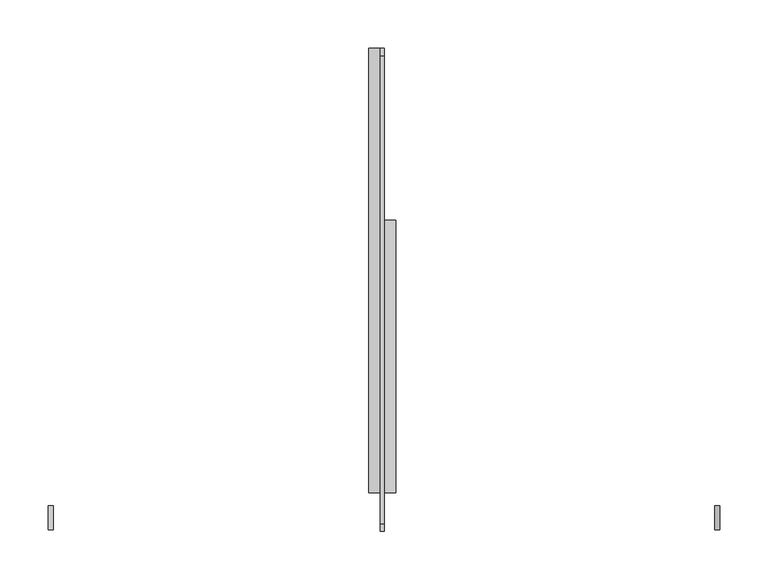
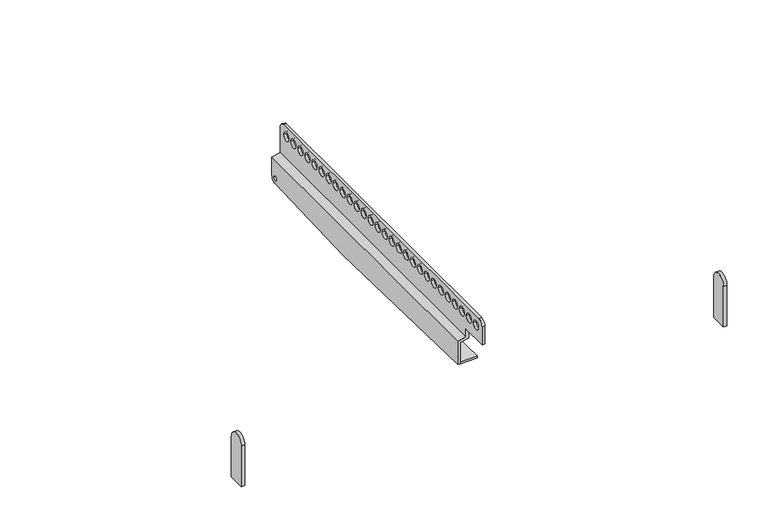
"""IFC4 building model written with IfcOpenShell, lengths in millimetres: proxy geometry, d&b A-Series Flying Frame : AL Flying Frame."""

from ifc_helpers import new_model, si_unit, point, frame, origin, origin_2d, place, context, project, spatial, polyline, circle_curve, trimmed, segment, composite_curve, outline, extrude, source, transform, mapped, element, save
from ifc_brep_helpers import plane_surface, cylinder_surface, revolved_surface, advanced_brep


def communication_devices_07eabc64(model_context):
    return source(origin(), model_context, "Body", "SolidModel", [
        advanced_brep(
        [(-4.0, 26.0, 22.1231056), (-16.0, 26.0, 19.1231056), (-16.0, 26.0, -16.0), (-12.0, 26.0, -16.0), (-12.0, 26.0, 16.0), (0.0, 26.0, 19.0), (0.0, 26.0, 34.0), (-4.0, 26.0, 34.0), (0.0, 486.0, 19.0), (-12.0, 486.0, 16.0), (-12.0, 486.0, -8.2905675), (-16.0, 486.0, -8.2905675), (-16.0, 486.0, 19.1231056), (-4.0, 486.0, 22.1231056), (-4.0, 486.0, 61.0), (0.0, 486.0, 61.0), (-16.0, 478.2958408, -16.2850956), (-16.0, 310.35, -22.5), (-16.0, 481.2216493, -8.2510012), (-16.0, 474.8240705, -8.2510012), (-12.0, 310.35, -22.5), (-12.0, 478.2958408, -16.2850956), (-12.0, 481.2216493, -8.2510012), (-12.0, 474.8240705, -8.2510012), (0.0, -14.0, 34.0), (0.0, -14.0, 61.0), (-4.0, -14.0, 61.0), (-4.0, -14.0, 34.0), (0.0, -6.0, 69.0), (0.0, 478.0, 69.0), (-4.0, 478.0, 69.0), (-4.0, -6.0, 69.0), (0.0, 464.65, 55.0), (0.0, 477.15, 55.0), (0.0, 447.25, 55.0), (0.0, 459.75, 55.0), (0.0, 429.85, 55.0), (0.0, 442.35, 55.0), (0.0, 412.45, 55.0), (0.0, 424.95, 55.0), (0.0, 395.05, 55.0), (0.0, 407.55, 55.0), (0.0, 377.65, 55.0), (0.0, 390.15, 55.0), (0.0, 360.25, 55.0), (0.0, 372.75, 55.0), (0.0, 342.85, 55.0), (0.0, 355.35, 55.0), (0.0, 325.45, 55.0), (0.0, 337.95, 55.0), (0.0, 198.75, 55.0), (0.0, 186.25, 55.0), (0.0, 216.15, 55.0), (0.0, 203.65, 55.0), (0.0, 233.55, 55.0), (0.0, 221.05, 55.0), (0.0, 250.95, 55.0), (0.0, 238.45, 55.0), (0.0, 268.35, 55.0), (0.0, 255.85, 55.0), (0.0, 285.75, 55.0), (0.0, 273.25, 55.0), (0.0, 303.15, 55.0), (0.0, 290.65, 55.0), (0.0, 320.55, 55.0), (0.0, 308.05, 55.0), (0.0, 59.55, 55.0), (0.0, 47.05, 55.0), (0.0, 168.85, 55.0), (0.0, 181.35, 55.0), (0.0, 151.45, 55.0), (0.0, 163.95, 55.0), (0.0, 134.05, 55.0), (0.0, 146.55, 55.0), (0.0, 116.65, 55.0), (0.0, 129.15, 55.0), (0.0, 99.25, 55.0), (0.0, 111.75, 55.0), (0.0, 81.85, 55.0), (0.0, 94.35, 55.0), (0.0, 64.45, 55.0), (0.0, 76.95, 55.0), (0.0, 7.35, 55.0), (0.0, -5.15, 55.0), (0.0, 24.75, 55.0), (0.0, 12.25, 55.0), (0.0, 42.15, 55.0), (0.0, 29.65, 55.0), (-4.0, 464.65, 55.0), (-4.0, 477.15, 55.0), (-4.0, 447.25, 55.0), (-4.0, 459.75, 55.0), (-4.0, 429.85, 55.0), (-4.0, 442.35, 55.0), (-4.0, 412.45, 55.0), (-4.0, 424.95, 55.0), (-4.0, 395.05, 55.0), (-4.0, 407.55, 55.0), (-4.0, 377.65, 55.0), (-4.0, 390.15, 55.0), (-4.0, 360.25, 55.0), (-4.0, 372.75, 55.0), (-4.0, 342.85, 55.0), (-4.0, 355.35, 55.0), (-4.0, 325.45, 55.0), (-4.0, 337.95, 55.0), (-4.0, 198.75, 55.0), (-4.0, 186.25, 55.0), (-4.0, 216.15, 55.0), (-4.0, 203.65, 55.0), (-4.0, 233.55, 55.0), (-4.0, 221.05, 55.0), (-4.0, 250.95, 55.0), (-4.0, 238.45, 55.0), (-4.0, 268.35, 55.0), (-4.0, 255.85, 55.0), (-4.0, 285.75, 55.0), (-4.0, 273.25, 55.0), (-4.0, 303.15, 55.0), (-4.0, 290.65, 55.0), (-4.0, 320.55, 55.0), (-4.0, 308.05, 55.0), (-4.0, 59.55, 55.0), (-4.0, 47.05, 55.0), (-4.0, 168.85, 55.0), (-4.0, 181.35, 55.0), (-4.0, 151.45, 55.0), (-4.0, 163.95, 55.0), (-4.0, 134.05, 55.0), (-4.0, 146.55, 55.0), (-4.0, 116.65, 55.0), (-4.0, 129.15, 55.0), (-4.0, 99.25, 55.0), (-4.0, 111.75, 55.0), (-4.0, 81.85, 55.0), (-4.0, 94.35, 55.0), (-4.0, 64.45, 55.0), (-4.0, 76.95, 55.0), (-4.0, 7.35, 55.0), (-4.0, -5.15, 55.0), (-4.0, 24.75, 55.0), (-4.0, 12.25, 55.0), (-4.0, 42.15, 55.0), (-4.0, 29.65, 55.0)],
        [
            (0, 1),
            (1, 2),
            (2, 3),
            (3, 4),
            (4, 5),
            (5, 6),
            (6, 7),
            (7, 0),
            (8, 9),
            (9, 10),
            (10, 11),
            (11, 12),
            (12, 13),
            (13, 14),
            (14, 15),
            (15, 8),
            (0, 13),
            (12, 1),
            (11, 16, circle_curve(frame((-16.0, 478.0, -8.2905675), z_axis=(-1.0, 0.0, 0.0), x_axis=(0.0, -1.0, 0.0)), 8.0)),
            (16, 17),
            (17, 2),
            (18, 19, circle_curve(frame((-16.0, 478.0228599, -8.2510012), z_axis=(1.0, 0.0, 0.0), x_axis=(0.0, -1.0, 0.0)), 3.1987894)),
            (19, 18, circle_curve(frame((-16.0, 478.0228599, -8.2510012), z_axis=(1.0, 0.0, 0.0), x_axis=(0.0, -1.0, 0.0)), 3.1987894)),
            (3, 20),
            (20, 21),
            (21, 10, circle_curve(frame((-12.0, 478.0, -8.2905675), z_axis=(1.0, 0.0, 0.0), x_axis=(0.0, -1.0, 0.0)), 8.0)),
            (9, 4),
            (22, 23, circle_curve(frame((-12.0, 478.0228599, -8.2510012), z_axis=(-1.0, 0.0, 0.0), x_axis=(0.0, -1.0, 0.0)), 3.1987894)),
            (23, 22, circle_curve(frame((-12.0, 478.0228599, -8.2510012), z_axis=(-1.0, 0.0, 0.0), x_axis=(0.0, -1.0, 0.0)), 3.1987894)),
            (8, 5),
            (24, 25),
            (25, 26),
            (26, 27),
            (27, 24),
            (6, 24),
            (27, 7),
            (28, 29),
            (29, 30),
            (30, 31),
            (31, 28),
            (25, 28, circle_curve(frame((0.0, -6.0, 61.0), z_axis=(-1.0, 0.0, 0.0), x_axis=(0.0, -1.0, 0.0)), 8.0)),
            (31, 26, circle_curve(frame((-4.0, -6.0, 61.0), z_axis=(1.0, 0.0, 0.0), x_axis=(0.0, -1.0, 0.0)), 8.0)),
            (29, 15, circle_curve(frame((0.0, 478.0, 61.0), z_axis=(-1.0, 0.0, 0.0), x_axis=(0.0, -1.0, 0.0)), 8.0)),
            (14, 30, circle_curve(frame((-4.0, 478.0, 61.0), z_axis=(1.0, 0.0, 0.0), x_axis=(0.0, -1.0, 0.0)), 8.0)),
            (17, 20),
            (16, 21),
            (22, 18),
            (19, 23),
            (32, 33, circle_curve(frame((0.0, 470.9, 55.0), z_axis=(-1.0, 0.0, 0.0), x_axis=(0.0, 1.0, 0.0)), 6.25)),
            (33, 32, circle_curve(frame((0.0, 470.9, 55.0), z_axis=(-1.0, 0.0, 0.0), x_axis=(0.0, 1.0, 0.0)), 6.25)),
            (34, 35, circle_curve(frame((0.0, 453.5, 55.0), z_axis=(-1.0, 0.0, 0.0), x_axis=(0.0, 1.0, 0.0)), 6.25)),
            (35, 34, circle_curve(frame((0.0, 453.5, 55.0), z_axis=(-1.0, 0.0, 0.0), x_axis=(0.0, 1.0, 0.0)), 6.25)),
            (36, 37, circle_curve(frame((0.0, 436.1, 55.0), z_axis=(-1.0, 0.0, 0.0), x_axis=(0.0, 1.0, 0.0)), 6.25)),
            (37, 36, circle_curve(frame((0.0, 436.1, 55.0), z_axis=(-1.0, 0.0, 0.0), x_axis=(0.0, 1.0, 0.0)), 6.25)),
            (38, 39, circle_curve(frame((0.0, 418.7, 55.0), z_axis=(-1.0, 0.0, 0.0), x_axis=(0.0, 1.0, 0.0)), 6.25)),
            (39, 38, circle_curve(frame((0.0, 418.7, 55.0), z_axis=(-1.0, 0.0, 0.0), x_axis=(0.0, 1.0, 0.0)), 6.25)),
            (40, 41, circle_curve(frame((0.0, 401.3, 55.0), z_axis=(-1.0, 0.0, 0.0), x_axis=(0.0, 1.0, 0.0)), 6.25)),
            (41, 40, circle_curve(frame((0.0, 401.3, 55.0), z_axis=(-1.0, 0.0, 0.0), x_axis=(0.0, 1.0, 0.0)), 6.25)),
            (42, 43, circle_curve(frame((0.0, 383.9, 55.0), z_axis=(-1.0, 0.0, 0.0), x_axis=(0.0, 1.0, 0.0)), 6.25)),
            (43, 42, circle_curve(frame((0.0, 383.9, 55.0), z_axis=(-1.0, 0.0, 0.0), x_axis=(0.0, 1.0, 0.0)), 6.25)),
            (44, 45, circle_curve(frame((0.0, 366.5, 55.0), z_axis=(-1.0, 0.0, 0.0), x_axis=(0.0, 1.0, 0.0)), 6.25)),
            (45, 44, circle_curve(frame((0.0, 366.5, 55.0), z_axis=(-1.0, 0.0, 0.0), x_axis=(0.0, 1.0, 0.0)), 6.25)),
            (46, 47, circle_curve(frame((0.0, 349.1, 55.0), z_axis=(-1.0, 0.0, 0.0), x_axis=(0.0, 1.0, 0.0)), 6.25)),
            (47, 46, circle_curve(frame((0.0, 349.1, 55.0), z_axis=(-1.0, 0.0, 0.0), x_axis=(0.0, 1.0, 0.0)), 6.25)),
            (48, 49, circle_curve(frame((0.0, 331.7, 55.0), z_axis=(-1.0, 0.0, 0.0), x_axis=(0.0, 1.0, 0.0)), 6.25)),
            (49, 48, circle_curve(frame((0.0, 331.7, 55.0), z_axis=(-1.0, 0.0, 0.0), x_axis=(0.0, 1.0, 0.0)), 6.25)),
            (50, 51, circle_curve(frame((0.0, 192.5, 55.0), z_axis=(-1.0, 0.0, 0.0), x_axis=(0.0, -1.0, 0.0)), 6.25)),
            (51, 50, circle_curve(frame((0.0, 192.5, 55.0), z_axis=(-1.0, 0.0, 0.0), x_axis=(0.0, -1.0, 0.0)), 6.25)),
            (52, 53, circle_curve(frame((0.0, 209.9, 55.0), z_axis=(-1.0, 0.0, 0.0), x_axis=(0.0, -1.0, 0.0)), 6.25)),
            (53, 52, circle_curve(frame((0.0, 209.9, 55.0), z_axis=(-1.0, 0.0, 0.0), x_axis=(0.0, -1.0, 0.0)), 6.25)),
            (54, 55, circle_curve(frame((0.0, 227.3, 55.0), z_axis=(-1.0, 0.0, 0.0), x_axis=(0.0, -1.0, 0.0)), 6.25)),
            (55, 54, circle_curve(frame((0.0, 227.3, 55.0), z_axis=(-1.0, 0.0, 0.0), x_axis=(0.0, -1.0, 0.0)), 6.25)),
            (56, 57, circle_curve(frame((0.0, 244.7, 55.0), z_axis=(-1.0, 0.0, 0.0), x_axis=(0.0, -1.0, 0.0)), 6.25)),
            (57, 56, circle_curve(frame((0.0, 244.7, 55.0), z_axis=(-1.0, 0.0, 0.0), x_axis=(0.0, -1.0, 0.0)), 6.25)),
            (58, 59, circle_curve(frame((0.0, 262.1, 55.0), z_axis=(-1.0, 0.0, 0.0), x_axis=(0.0, -1.0, 0.0)), 6.25)),
            (59, 58, circle_curve(frame((0.0, 262.1, 55.0), z_axis=(-1.0, 0.0, 0.0), x_axis=(0.0, -1.0, 0.0)), 6.25)),
            (60, 61, circle_curve(frame((0.0, 279.5, 55.0), z_axis=(-1.0, 0.0, 0.0), x_axis=(0.0, -1.0, 0.0)), 6.25)),
            (61, 60, circle_curve(frame((0.0, 279.5, 55.0), z_axis=(-1.0, 0.0, 0.0), x_axis=(0.0, -1.0, 0.0)), 6.25)),
            (62, 63, circle_curve(frame((0.0, 296.9, 55.0), z_axis=(-1.0, 0.0, 0.0), x_axis=(0.0, -1.0, 0.0)), 6.25)),
            (63, 62, circle_curve(frame((0.0, 296.9, 55.0), z_axis=(-1.0, 0.0, 0.0), x_axis=(0.0, -1.0, 0.0)), 6.25)),
            (64, 65, circle_curve(frame((0.0, 314.3, 55.0), z_axis=(-1.0, 0.0, 0.0), x_axis=(0.0, -1.0, 0.0)), 6.25)),
            (65, 64, circle_curve(frame((0.0, 314.3, 55.0), z_axis=(-1.0, 0.0, 0.0), x_axis=(0.0, -1.0, 0.0)), 6.25)),
            (66, 67, circle_curve(frame((0.0, 53.3, 55.0), z_axis=(-1.0, 0.0, 0.0), x_axis=(0.0, -1.0, 0.0)), 6.25)),
            (67, 66, circle_curve(frame((0.0, 53.3, 55.0), z_axis=(-1.0, 0.0, 0.0), x_axis=(0.0, -1.0, 0.0)), 6.25)),
            (68, 69, circle_curve(frame((0.0, 175.1, 55.0), z_axis=(-1.0, 0.0, 0.0), x_axis=(0.0, 1.0, 0.0)), 6.25)),
            (69, 68, circle_curve(frame((0.0, 175.1, 55.0), z_axis=(-1.0, 0.0, 0.0), x_axis=(0.0, 1.0, 0.0)), 6.25)),
            (70, 71, circle_curve(frame((0.0, 157.7, 55.0), z_axis=(-1.0, 0.0, 0.0), x_axis=(0.0, 1.0, 0.0)), 6.25)),
            (71, 70, circle_curve(frame((0.0, 157.7, 55.0), z_axis=(-1.0, 0.0, 0.0), x_axis=(0.0, 1.0, 0.0)), 6.25)),
            (72, 73, circle_curve(frame((0.0, 140.3, 55.0), z_axis=(-1.0, 0.0, 0.0), x_axis=(0.0, 1.0, 0.0)), 6.25)),
            (73, 72, circle_curve(frame((0.0, 140.3, 55.0), z_axis=(-1.0, 0.0, 0.0), x_axis=(0.0, 1.0, 0.0)), 6.25)),
            (74, 75, circle_curve(frame((0.0, 122.9, 55.0), z_axis=(-1.0, 0.0, 0.0), x_axis=(0.0, 1.0, 0.0)), 6.25)),
            (75, 74, circle_curve(frame((0.0, 122.9, 55.0), z_axis=(-1.0, 0.0, 0.0), x_axis=(0.0, 1.0, 0.0)), 6.25)),
            (76, 77, circle_curve(frame((0.0, 105.5, 55.0), z_axis=(-1.0, 0.0, 0.0), x_axis=(0.0, 1.0, 0.0)), 6.25)),
            (77, 76, circle_curve(frame((0.0, 105.5, 55.0), z_axis=(-1.0, 0.0, 0.0), x_axis=(0.0, 1.0, 0.0)), 6.25)),
            (78, 79, circle_curve(frame((0.0, 88.1, 55.0), z_axis=(-1.0, 0.0, 0.0), x_axis=(0.0, 1.0, 0.0)), 6.25)),
            (79, 78, circle_curve(frame((0.0, 88.1, 55.0), z_axis=(-1.0, 0.0, 0.0), x_axis=(0.0, 1.0, 0.0)), 6.25)),
            (80, 81, circle_curve(frame((0.0, 70.7, 55.0), z_axis=(-1.0, 0.0, 0.0), x_axis=(0.0, 1.0, 0.0)), 6.25)),
            (81, 80, circle_curve(frame((0.0, 70.7, 55.0), z_axis=(-1.0, 0.0, 0.0), x_axis=(0.0, 1.0, 0.0)), 6.25)),
            (82, 83, circle_curve(frame((0.0, 1.1, 55.0), z_axis=(-1.0, 0.0, 0.0), x_axis=(0.0, -1.0, 0.0)), 6.25)),
            (83, 82, circle_curve(frame((0.0, 1.1, 55.0), z_axis=(-1.0, 0.0, 0.0), x_axis=(0.0, -1.0, 0.0)), 6.25)),
            (84, 85, circle_curve(frame((0.0, 18.5, 55.0), z_axis=(-1.0, 0.0, 0.0), x_axis=(0.0, -1.0, 0.0)), 6.25)),
            (85, 84, circle_curve(frame((0.0, 18.5, 55.0), z_axis=(-1.0, 0.0, 0.0), x_axis=(0.0, -1.0, 0.0)), 6.25)),
            (86, 87, circle_curve(frame((0.0, 35.9, 55.0), z_axis=(-1.0, 0.0, 0.0), x_axis=(0.0, -1.0, 0.0)), 6.25)),
            (87, 86, circle_curve(frame((0.0, 35.9, 55.0), z_axis=(-1.0, 0.0, 0.0), x_axis=(0.0, -1.0, 0.0)), 6.25)),
            (88, 89, circle_curve(frame((-4.0, 470.9, 55.0), z_axis=(1.0, 0.0, 0.0), x_axis=(0.0, 1.0, 0.0)), 6.25)),
            (89, 88, circle_curve(frame((-4.0, 470.9, 55.0), z_axis=(1.0, 0.0, 0.0), x_axis=(0.0, 1.0, 0.0)), 6.25)),
            (90, 91, circle_curve(frame((-4.0, 453.5, 55.0), z_axis=(1.0, 0.0, 0.0), x_axis=(0.0, 1.0, 0.0)), 6.25)),
            (91, 90, circle_curve(frame((-4.0, 453.5, 55.0), z_axis=(1.0, 0.0, 0.0), x_axis=(0.0, 1.0, 0.0)), 6.25)),
            (92, 93, circle_curve(frame((-4.0, 436.1, 55.0), z_axis=(1.0, 0.0, 0.0), x_axis=(0.0, 1.0, 0.0)), 6.25)),
            (93, 92, circle_curve(frame((-4.0, 436.1, 55.0), z_axis=(1.0, 0.0, 0.0), x_axis=(0.0, 1.0, 0.0)), 6.25)),
            (94, 95, circle_curve(frame((-4.0, 418.7, 55.0), z_axis=(1.0, 0.0, 0.0), x_axis=(0.0, 1.0, 0.0)), 6.25)),
            (95, 94, circle_curve(frame((-4.0, 418.7, 55.0), z_axis=(1.0, 0.0, 0.0), x_axis=(0.0, 1.0, 0.0)), 6.25)),
            (96, 97, circle_curve(frame((-4.0, 401.3, 55.0), z_axis=(1.0, 0.0, 0.0), x_axis=(0.0, 1.0, 0.0)), 6.25)),
            (97, 96, circle_curve(frame((-4.0, 401.3, 55.0), z_axis=(1.0, 0.0, 0.0), x_axis=(0.0, 1.0, 0.0)), 6.25)),
            (98, 99, circle_curve(frame((-4.0, 383.9, 55.0), z_axis=(1.0, 0.0, 0.0), x_axis=(0.0, 1.0, 0.0)), 6.25)),
            (99, 98, circle_curve(frame((-4.0, 383.9, 55.0), z_axis=(1.0, 0.0, 0.0), x_axis=(0.0, 1.0, 0.0)), 6.25)),
            (100, 101, circle_curve(frame((-4.0, 366.5, 55.0), z_axis=(1.0, 0.0, 0.0), x_axis=(0.0, 1.0, 0.0)), 6.25)),
            (101, 100, circle_curve(frame((-4.0, 366.5, 55.0), z_axis=(1.0, 0.0, 0.0), x_axis=(0.0, 1.0, 0.0)), 6.25)),
            (102, 103, circle_curve(frame((-4.0, 349.1, 55.0), z_axis=(1.0, 0.0, 0.0), x_axis=(0.0, 1.0, 0.0)), 6.25)),
            (103, 102, circle_curve(frame((-4.0, 349.1, 55.0), z_axis=(1.0, 0.0, 0.0), x_axis=(0.0, 1.0, 0.0)), 6.25)),
            (104, 105, circle_curve(frame((-4.0, 331.7, 55.0), z_axis=(1.0, 0.0, 0.0), x_axis=(0.0, 1.0, 0.0)), 6.25)),
            (105, 104, circle_curve(frame((-4.0, 331.7, 55.0), z_axis=(1.0, 0.0, 0.0), x_axis=(0.0, 1.0, 0.0)), 6.25)),
            (106, 107, circle_curve(frame((-4.0, 192.5, 55.0), z_axis=(1.0, 0.0, 0.0), x_axis=(0.0, -1.0, 0.0)), 6.25)),
            (107, 106, circle_curve(frame((-4.0, 192.5, 55.0), z_axis=(1.0, 0.0, 0.0), x_axis=(0.0, -1.0, 0.0)), 6.25)),
            (108, 109, circle_curve(frame((-4.0, 209.9, 55.0), z_axis=(1.0, 0.0, 0.0), x_axis=(0.0, -1.0, 0.0)), 6.25)),
            (109, 108, circle_curve(frame((-4.0, 209.9, 55.0), z_axis=(1.0, 0.0, 0.0), x_axis=(0.0, -1.0, 0.0)), 6.25)),
            (110, 111, circle_curve(frame((-4.0, 227.3, 55.0), z_axis=(1.0, 0.0, 0.0), x_axis=(0.0, -1.0, 0.0)), 6.25)),
            (111, 110, circle_curve(frame((-4.0, 227.3, 55.0), z_axis=(1.0, 0.0, 0.0), x_axis=(0.0, -1.0, 0.0)), 6.25)),
            (112, 113, circle_curve(frame((-4.0, 244.7, 55.0), z_axis=(1.0, 0.0, 0.0), x_axis=(0.0, -1.0, 0.0)), 6.25)),
            (113, 112, circle_curve(frame((-4.0, 244.7, 55.0), z_axis=(1.0, 0.0, 0.0), x_axis=(0.0, -1.0, 0.0)), 6.25)),
            (114, 115, circle_curve(frame((-4.0, 262.1, 55.0), z_axis=(1.0, 0.0, 0.0), x_axis=(0.0, -1.0, 0.0)), 6.25)),
            (115, 114, circle_curve(frame((-4.0, 262.1, 55.0), z_axis=(1.0, 0.0, 0.0), x_axis=(0.0, -1.0, 0.0)), 6.25)),
            (116, 117, circle_curve(frame((-4.0, 279.5, 55.0), z_axis=(1.0, 0.0, 0.0), x_axis=(0.0, -1.0, 0.0)), 6.25)),
            (117, 116, circle_curve(frame((-4.0, 279.5, 55.0), z_axis=(1.0, 0.0, 0.0), x_axis=(0.0, -1.0, 0.0)), 6.25)),
            (118, 119, circle_curve(frame((-4.0, 296.9, 55.0), z_axis=(1.0, 0.0, 0.0), x_axis=(0.0, -1.0, 0.0)), 6.25)),
            (119, 118, circle_curve(frame((-4.0, 296.9, 55.0), z_axis=(1.0, 0.0, 0.0), x_axis=(0.0, -1.0, 0.0)), 6.25)),
            (120, 121, circle_curve(frame((-4.0, 314.3, 55.0), z_axis=(1.0, 0.0, 0.0), x_axis=(0.0, -1.0, 0.0)), 6.25)),
            (121, 120, circle_curve(frame((-4.0, 314.3, 55.0), z_axis=(1.0, 0.0, 0.0), x_axis=(0.0, -1.0, 0.0)), 6.25)),
            (122, 123, circle_curve(frame((-4.0, 53.3, 55.0), z_axis=(1.0, 0.0, 0.0), x_axis=(0.0, -1.0, 0.0)), 6.25)),
            (123, 122, circle_curve(frame((-4.0, 53.3, 55.0), z_axis=(1.0, 0.0, 0.0), x_axis=(0.0, -1.0, 0.0)), 6.25)),
            (124, 125, circle_curve(frame((-4.0, 175.1, 55.0), z_axis=(1.0, 0.0, 0.0), x_axis=(0.0, 1.0, 0.0)), 6.25)),
            (125, 124, circle_curve(frame((-4.0, 175.1, 55.0), z_axis=(1.0, 0.0, 0.0), x_axis=(0.0, 1.0, 0.0)), 6.25)),
            (126, 127, circle_curve(frame((-4.0, 157.7, 55.0), z_axis=(1.0, 0.0, 0.0), x_axis=(0.0, 1.0, 0.0)), 6.25)),
            (127, 126, circle_curve(frame((-4.0, 157.7, 55.0), z_axis=(1.0, 0.0, 0.0), x_axis=(0.0, 1.0, 0.0)), 6.25)),
            (128, 129, circle_curve(frame((-4.0, 140.3, 55.0), z_axis=(1.0, 0.0, 0.0), x_axis=(0.0, 1.0, 0.0)), 6.25)),
            (129, 128, circle_curve(frame((-4.0, 140.3, 55.0), z_axis=(1.0, 0.0, 0.0), x_axis=(0.0, 1.0, 0.0)), 6.25)),
            (130, 131, circle_curve(frame((-4.0, 122.9, 55.0), z_axis=(1.0, 0.0, 0.0), x_axis=(0.0, 1.0, 0.0)), 6.25)),
            (131, 130, circle_curve(frame((-4.0, 122.9, 55.0), z_axis=(1.0, 0.0, 0.0), x_axis=(0.0, 1.0, 0.0)), 6.25)),
            (132, 133, circle_curve(frame((-4.0, 105.5, 55.0), z_axis=(1.0, 0.0, 0.0), x_axis=(0.0, 1.0, 0.0)), 6.25)),
            (133, 132, circle_curve(frame((-4.0, 105.5, 55.0), z_axis=(1.0, 0.0, 0.0), x_axis=(0.0, 1.0, 0.0)), 6.25)),
            (134, 135, circle_curve(frame((-4.0, 88.1, 55.0), z_axis=(1.0, 0.0, 0.0), x_axis=(0.0, 1.0, 0.0)), 6.25)),
            (135, 134, circle_curve(frame((-4.0, 88.1, 55.0), z_axis=(1.0, 0.0, 0.0), x_axis=(0.0, 1.0, 0.0)), 6.25)),
            (136, 137, circle_curve(frame((-4.0, 70.7, 55.0), z_axis=(1.0, 0.0, 0.0), x_axis=(0.0, 1.0, 0.0)), 6.25)),
            (137, 136, circle_curve(frame((-4.0, 70.7, 55.0), z_axis=(1.0, 0.0, 0.0), x_axis=(0.0, 1.0, 0.0)), 6.25)),
            (138, 139, circle_curve(frame((-4.0, 1.1, 55.0), z_axis=(1.0, 0.0, 0.0), x_axis=(0.0, -1.0, 0.0)), 6.25)),
            (139, 138, circle_curve(frame((-4.0, 1.1, 55.0), z_axis=(1.0, 0.0, 0.0), x_axis=(0.0, -1.0, 0.0)), 6.25)),
            (140, 141, circle_curve(frame((-4.0, 18.5, 55.0), z_axis=(1.0, 0.0, 0.0), x_axis=(0.0, -1.0, 0.0)), 6.25)),
            (141, 140, circle_curve(frame((-4.0, 18.5, 55.0), z_axis=(1.0, 0.0, 0.0), x_axis=(0.0, -1.0, 0.0)), 6.25)),
            (142, 143, circle_curve(frame((-4.0, 35.9, 55.0), z_axis=(1.0, 0.0, 0.0), x_axis=(0.0, -1.0, 0.0)), 6.25)),
            (143, 142, circle_curve(frame((-4.0, 35.9, 55.0), z_axis=(1.0, 0.0, 0.0), x_axis=(0.0, -1.0, 0.0)), 6.25)),
            (32, 88),
            (89, 33),
            (34, 90),
            (91, 35),
            (36, 92),
            (93, 37),
            (38, 94),
            (95, 39),
            (40, 96),
            (97, 41),
            (42, 98),
            (99, 43),
            (44, 100),
            (101, 45),
            (46, 102),
            (103, 47),
            (48, 104),
            (105, 49),
            (50, 106),
            (107, 51),
            (52, 108),
            (109, 53),
            (54, 110),
            (111, 55),
            (56, 112),
            (113, 57),
            (58, 114),
            (115, 59),
            (60, 116),
            (117, 61),
            (62, 118),
            (119, 63),
            (64, 120),
            (121, 65),
            (66, 122),
            (123, 67),
            (68, 124),
            (125, 69),
            (70, 126),
            (127, 71),
            (72, 128),
            (129, 73),
            (74, 130),
            (131, 75),
            (76, 132),
            (133, 77),
            (78, 134),
            (135, 79),
            (80, 136),
            (137, 81),
            (82, 138),
            (139, 83),
            (84, 140),
            (141, 85),
            (86, 142),
            (143, 87),
        ],
        [
            plane_surface(frame((0.0, 26.0, 23.6846584), z_axis=(0.0, -1.0, 0.0), x_axis=(0.0, 0.0, 1.0))),
            plane_surface(frame((0.0, 486.0, 23.6846584), z_axis=(0.0, 1.0, 0.0), x_axis=(0.0, 0.0, -1.0))),
            plane_surface(frame((-4.0, 26.0, 22.1231056), z_axis=(-0.24253562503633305, 0.0, 0.9701425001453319), x_axis=(0.0, 1.0, 0.0))),
            plane_surface(frame((-16.0, 26.0, 19.1231056), z_axis=(-1.0, 0.0, 0.0), x_axis=(0.0, 1.0, 0.0))),
            plane_surface(frame((-12.0, 26.0, 12.25), z_axis=(1.0, 0.0, 0.0), x_axis=(0.0, 1.0, 0.0))),
            plane_surface(frame((-12.0, 26.0, 16.0), z_axis=(0.24253562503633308, 0.0, -0.9701425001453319), x_axis=(0.0, 1.0, 0.0))),
            plane_surface(frame((0.0, -14.0, 61.0), z_axis=(0.0, -1.0, 0.0), x_axis=(-1.0, 0.0, 0.0))),
            plane_surface(frame((0.0, -14.0, 34.0), z_axis=(0.0, 0.0, -1.0), x_axis=(-1.0, 0.0, 0.0))),
            plane_surface(frame((0.0, 478.0, 69.0), z_axis=(0.0, 0.0, 1.0), x_axis=(-1.0, 0.0, 0.0))),
            cylinder_surface(frame((-4.0, -6.0, 61.0), z_axis=(1.0, 0.0, 0.0), x_axis=(0.0, -1.0, 0.0)), 8.0),
            cylinder_surface(frame((-4.0, 478.0, 61.0), z_axis=(1.0, 0.0, 0.0), x_axis=(0.0, -1.0, 0.0)), 8.0),
            plane_surface(frame((-12.0, 26.0, -16.0), z_axis=(0.0, -0.022853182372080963, -0.9997388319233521), x_axis=(-1.0, 0.0, 0.0))),
            plane_surface(frame((-12.0, 310.35, -22.5), z_axis=(0.0, 0.036980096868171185, -0.9993160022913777), x_axis=(-1.0, 0.0, 0.0))),
            cylinder_surface(frame((-16.0, 478.0, -8.2905675), z_axis=(1.0, 0.0, 0.0), x_axis=(0.0, -1.0, 0.0)), 8.0),
            revolved_surface(polyline([(-16.0, 474.8240705, -8.2510012), (-12.0, 474.8240705, -8.2510012)]), (0.0, 478.0228599, -8.2510012), (-1.0, 0.0, 0.0)),
            plane_surface(frame((0.0, 26.0, 19.0), z_axis=(1.0, 0.0, 0.0), x_axis=(0.0, 1.0, 0.0))),
            plane_surface(frame((-4.0, 26.0, 23.6846584), z_axis=(-1.0, 0.0, 0.0), x_axis=(0.0, 1.0, 0.0))),
            revolved_surface(polyline([(-4.0, 477.15, 55.0), (0.0, 477.15, 55.0)]), (-4.0, 470.9, 55.0), (-1.0, 0.0, 0.0)),
            revolved_surface(polyline([(-4.0, 459.75, 55.0), (0.0, 459.75, 55.0)]), (-4.0, 453.5, 55.0), (-1.0, 0.0, 0.0)),
            revolved_surface(polyline([(-4.0, 442.35, 55.0), (0.0, 442.35, 55.0)]), (-4.0, 436.1, 55.0), (-1.0, 0.0, 0.0)),
            revolved_surface(polyline([(-4.0, 424.95, 55.0), (0.0, 424.95, 55.0)]), (-4.0, 418.7, 55.0), (-1.0, 0.0, 0.0)),
            revolved_surface(polyline([(-4.0, 407.55, 55.0), (0.0, 407.55, 55.0)]), (-4.0, 401.3, 55.0), (-1.0, 0.0, 0.0)),
            revolved_surface(polyline([(-4.0, 390.15, 55.0), (0.0, 390.15, 55.0)]), (-4.0, 383.9, 55.0), (-1.0, 0.0, 0.0)),
            revolved_surface(polyline([(-4.0, 372.75, 55.0), (0.0, 372.75, 55.0)]), (-4.0, 366.5, 55.0), (-1.0, 0.0, 0.0)),
            revolved_surface(polyline([(-4.0, 355.35, 55.0), (0.0, 355.35, 55.0)]), (-4.0, 349.1, 55.0), (-1.0, 0.0, 0.0)),
            revolved_surface(polyline([(-4.0, 337.95, 55.0), (0.0, 337.95, 55.0)]), (-4.0, 331.7, 55.0), (-1.0, 0.0, 0.0)),
            revolved_surface(polyline([(-4.0, 186.25, 55.0), (0.0, 186.25, 55.0)]), (-4.0, 192.5, 55.0), (-1.0, 0.0, 0.0)),
            revolved_surface(polyline([(-4.0, 203.65, 55.0), (0.0, 203.65, 55.0)]), (-4.0, 209.9, 55.0), (-1.0, 0.0, 0.0)),
            revolved_surface(polyline([(-4.0, 221.05, 55.0), (0.0, 221.05, 55.0)]), (-4.0, 227.3, 55.0), (-1.0, 0.0, 0.0)),
            revolved_surface(polyline([(-4.0, 238.45, 55.0), (0.0, 238.45, 55.0)]), (-4.0, 244.7, 55.0), (-1.0, 0.0, 0.0)),
            revolved_surface(polyline([(-4.0, 255.85000000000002, 55.0), (0.0, 255.85000000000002, 55.0)]), (-4.0, 262.1, 55.0), (-1.0, 0.0, 0.0)),
            revolved_surface(polyline([(-4.0, 273.25, 55.0), (0.0, 273.25, 55.0)]), (-4.0, 279.5, 55.0), (-1.0, 0.0, 0.0)),
            revolved_surface(polyline([(-4.0, 290.65, 55.0), (0.0, 290.65, 55.0)]), (-4.0, 296.9, 55.0), (-1.0, 0.0, 0.0)),
            revolved_surface(polyline([(-4.0, 308.05, 55.0), (0.0, 308.05, 55.0)]), (-4.0, 314.3, 55.0), (-1.0, 0.0, 0.0)),
            revolved_surface(polyline([(-4.0, 47.05, 55.0), (0.0, 47.05, 55.0)]), (-4.0, 53.3, 55.0), (-1.0, 0.0, 0.0)),
            revolved_surface(polyline([(-4.0, 181.35, 55.0), (0.0, 181.35, 55.0)]), (-4.0, 175.1, 55.0), (-1.0, 0.0, 0.0)),
            revolved_surface(polyline([(-4.0, 163.95, 55.0), (0.0, 163.95, 55.0)]), (-4.0, 157.7, 55.0), (-1.0, 0.0, 0.0)),
            revolved_surface(polyline([(-4.0, 146.55, 55.0), (0.0, 146.55, 55.0)]), (-4.0, 140.3, 55.0), (-1.0, 0.0, 0.0)),
            revolved_surface(polyline([(-4.0, 129.15, 55.0), (0.0, 129.15, 55.0)]), (-4.0, 122.9, 55.0), (-1.0, 0.0, 0.0)),
            revolved_surface(polyline([(-4.0, 111.75, 55.0), (0.0, 111.75, 55.0)]), (-4.0, 105.5, 55.0), (-1.0, 0.0, 0.0)),
            revolved_surface(polyline([(-4.0, 94.35, 55.0), (0.0, 94.35, 55.0)]), (-4.0, 88.1, 55.0), (-1.0, 0.0, 0.0)),
            revolved_surface(polyline([(-4.0, 76.95, 55.0), (0.0, 76.95, 55.0)]), (-4.0, 70.7, 55.0), (-1.0, 0.0, 0.0)),
            revolved_surface(polyline([(-4.0, -5.15, 55.0), (0.0, -5.15, 55.0)]), (-4.0, 1.1, 55.0), (-1.0, 0.0, 0.0)),
            revolved_surface(polyline([(-4.0, 12.25, 55.0), (0.0, 12.25, 55.0)]), (-4.0, 18.5, 55.0), (-1.0, 0.0, 0.0)),
            revolved_surface(polyline([(-4.0, 29.65, 55.0), (0.0, 29.65, 55.0)]), (-4.0, 35.9, 55.0), (-1.0, 0.0, 0.0)),
        ],
        [
            (0, [[1, 2, 3, 4, 5, 6, 7, 8]]),
            (1, [[9, 10, 11, 12, 13, 14, 15, 16]]),
            (2, [[-1, 17, -13, 18]]),
            (3, [[-2, -18, -12, 19, 20, 21], [22, 23]]),
            (4, [[-4, 24, 25, 26, -10, 27], [28, 29]]),
            (5, [[-5, -27, -9, 30]]),
            (6, [[31, 32, 33, 34]]),
            (7, [[35, -34, 36, -7]]),
            (8, [[37, 38, 39, 40]]),
            (9, [[41, -40, 42, -32]]),
            (10, [[43, -15, 44, -38]]),
            (11, [[-24, -3, -21, 45]]),
            (12, [[-25, -45, -20, 46]]),
            (13, [[-26, -46, -19, -11]]),
            (14, [[-28, 47, -23, 48]]),
            (14, [[-29, -48, -22, -47]]),
            (15, [[-30, -16, -43, -37, -41, -31, -35, -6], [49, 50], [51, 52], [53, 54], [55, 56], [57, 58], [59, 60], [61, 62], [63, 64], [65, 66], [67, 68], [69, 70], [71, 72], [73, 74], [75, 76], [77, 78], [79, 80], [81, 82], [83, 84], [85, 86], [87, 88], [89, 90], [91, 92], [93, 94], [95, 96], [97, 98], [99, 100], [101, 102], [103, 104]]),
            (16, [[-17, -8, -36, -33, -42, -39, -44, -14], [105, 106], [107, 108], [109, 110], [111, 112], [113, 114], [115, 116], [117, 118], [119, 120], [121, 122], [123, 124], [125, 126], [127, 128], [129, 130], [131, 132], [133, 134], [135, 136], [137, 138], [139, 140], [141, 142], [143, 144], [145, 146], [147, 148], [149, 150], [151, 152], [153, 154], [155, 156], [157, 158], [159, 160]]),
            (17, [[-49, 161, -106, 162]]),
            (17, [[-50, -162, -105, -161]]),
            (18, [[-51, 163, -108, 164]]),
            (18, [[-52, -164, -107, -163]]),
            (19, [[-53, 165, -110, 166]]),
            (19, [[-54, -166, -109, -165]]),
            (20, [[-55, 167, -112, 168]]),
            (20, [[-56, -168, -111, -167]]),
            (21, [[-57, 169, -114, 170]]),
            (21, [[-58, -170, -113, -169]]),
            (22, [[-59, 171, -116, 172]]),
            (22, [[-60, -172, -115, -171]]),
            (23, [[-61, 173, -118, 174]]),
            (23, [[-62, -174, -117, -173]]),
            (24, [[-63, 175, -120, 176]]),
            (24, [[-64, -176, -119, -175]]),
            (25, [[-65, 177, -122, 178]]),
            (25, [[-66, -178, -121, -177]]),
            (26, [[-67, 179, -124, 180]]),
            (26, [[-68, -180, -123, -179]]),
            (27, [[-69, 181, -126, 182]]),
            (27, [[-70, -182, -125, -181]]),
            (28, [[-71, 183, -128, 184]]),
            (28, [[-72, -184, -127, -183]]),
            (29, [[-73, 185, -130, 186]]),
            (29, [[-74, -186, -129, -185]]),
            (30, [[-75, 187, -132, 188]]),
            (30, [[-76, -188, -131, -187]]),
            (31, [[-77, 189, -134, 190]]),
            (31, [[-78, -190, -133, -189]]),
            (32, [[-79, 191, -136, 192]]),
            (32, [[-80, -192, -135, -191]]),
            (33, [[-81, 193, -138, 194]]),
            (33, [[-82, -194, -137, -193]]),
            (34, [[-83, 195, -140, 196]]),
            (34, [[-84, -196, -139, -195]]),
            (35, [[-85, 197, -142, 198]]),
            (35, [[-86, -198, -141, -197]]),
            (36, [[-87, 199, -144, 200]]),
            (36, [[-88, -200, -143, -199]]),
            (37, [[-89, 201, -146, 202]]),
            (37, [[-90, -202, -145, -201]]),
            (38, [[-91, 203, -148, 204]]),
            (38, [[-92, -204, -147, -203]]),
            (39, [[-93, 205, -150, 206]]),
            (39, [[-94, -206, -149, -205]]),
            (40, [[-95, 207, -152, 208]]),
            (40, [[-96, -208, -151, -207]]),
            (41, [[-97, 209, -154, 210]]),
            (41, [[-98, -210, -153, -209]]),
            (42, [[-99, 211, -156, 212]]),
            (42, [[-100, -212, -155, -211]]),
            (43, [[-101, 213, -158, 214]]),
            (43, [[-102, -214, -157, -213]]),
            (44, [[-103, 215, -160, 216]]),
            (44, [[-104, -216, -159, -215]]),
        ],
    ),
        extrude(outline(polyline([(308.0826422, -22.4481701), (26.0685595, -16.0015672), (26.0685595, -13.0007835), (308.1512018, -19.4489536), (308.0826422, -22.4481701)])), frame((-12.0, 0.0, 0.0), z_axis=(1.0, 0.0, 0.0), x_axis=(0.0, 1.0, 0.0)), (0.0, 0.0, 1.0), 24.0),
        extrude(outline(composite_curve([segment(polyline([(-12.2288224, -61.5), (-12.2288224, 0.0)]), True, "CONTINUOUS"), segment(trimmed(circle_curve(origin_2d(), 12.2288224), [point((-12.2288224, 0.0))], [point((12.2288224, 0.0))], False, "CARTESIAN"), True, "CONTINUOUS"), segment(polyline([(12.2288224, 0.0), (12.2288224, -61.5), (-12.2288224, -61.5)]), True, "CONTINUOUS")], self_intersect=False)), frame((342.5, 0.0, 0.0), z_axis=(1.0, 0.0, 0.0), x_axis=(0.0, 1.0, 0.0)), (0.0, 0.0, 1.0), 5.0),
        extrude(outline(composite_curve([segment(polyline([(-12.2288224, -61.5), (-12.2288224, 0.0)]), True, "CONTINUOUS"), segment(trimmed(circle_curve(origin_2d(), 12.2288224), [point((-12.2288224, 0.0))], [point((12.2288224, 0.0))], False, "CARTESIAN"), True, "CONTINUOUS"), segment(polyline([(12.2288224, 0.0), (12.2288224, -61.5), (-12.2288224, -61.5)]), True, "CONTINUOUS")], self_intersect=False)), frame((-347.5, 0.0, 0.0), z_axis=(1.0, 0.0, 0.0), x_axis=(0.0, 1.0, 0.0)), (0.0, 0.0, 1.0), 5.0),
    ])


if __name__ == "__main__":
    model = new_model("IFC4")
    model_context = context("Model", 3, world=origin())
    ifc_project = project(units=[si_unit("LENGTHUNIT", "METRE", prefix="MILLI")], contexts=[model_context])
    site = spatial("IfcSite", under=ifc_project)
    building = spatial("IfcBuilding", under=site)
    placement = place(None, origin())
    communication_devices_shape = communication_devices_07eabc64(model_context)
    element("IfcBuildingElementProxy", 1, Name="d&b A-Series Flying Frame : AL Flying Frame", ObjectType="d&b A-Series Flying Frame : AL Flying Frame", at=placement, inside=building, context=model_context, shape_type="MappedRepresentation", body=[
        mapped(communication_devices_shape, transform((0.0, 0.0, 0.0), x_axis=(1.0, 0.0, 0.0), y_axis=(0.0, 1.0, 0.0), z_axis=(0.0, 0.0, 1.0))),
    ])
    save(model, "model.ifc")
